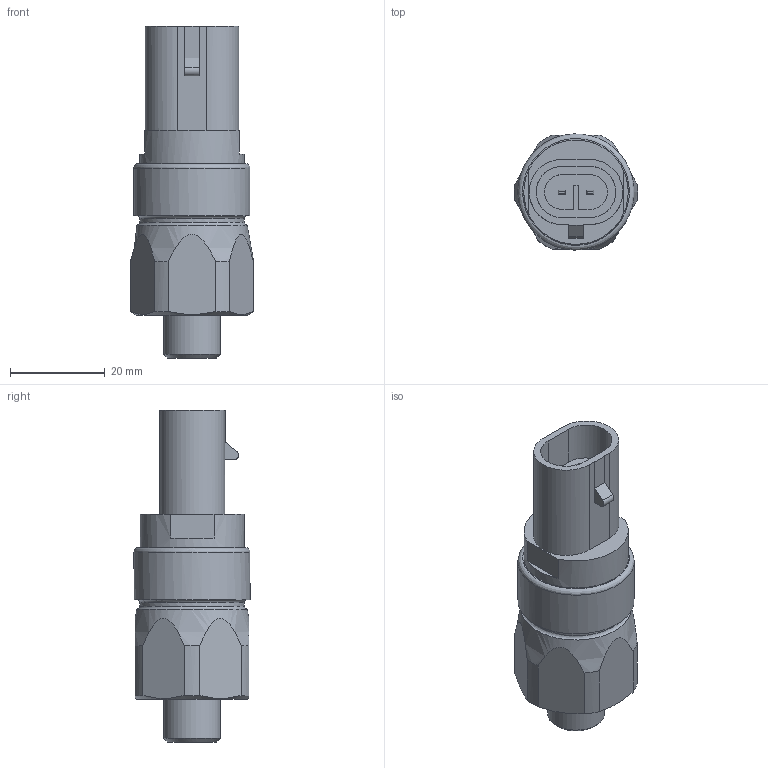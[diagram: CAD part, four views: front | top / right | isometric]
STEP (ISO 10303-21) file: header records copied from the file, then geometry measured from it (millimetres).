
FILE_DESCRIPTION((''),'2;1');
FILE_NAME('U:\Users\a.heinl\DG819_01.stp','2013-05-13T13:30:09',( 'User'),('SDRC'),'I-DEAS Master Series 9','UNIX','Yes');
FILE_SCHEMA(('AUTOMOTIVE_DESIGN { 1 0 10303 214 1 1 1 1 }'));
Length unit declared in the file: millimetre
Products named in the file (1): 28430401(292294)
Bounding box: 26 x 24.47 x 70 mm (x, y, z)
Volume: 21965.2 mm3; surface area: 6293 mm2
Topology: 1 solids, 1 shells, 74 faces, 180 edges, 116 vertices
Faces by surface type: bspline 74
Entity records: 2237 total; most frequent: CARTESIAN_POINT 1131, ORIENTED_EDGE 360, EDGE_CURVE 180, VERTEX_POINT 116, EDGE_LOOP 82, B_SPLINE_CURVE_WITH_KNOTS 75, FACE_OUTER_BOUND 74, ADVANCED_FACE 74
